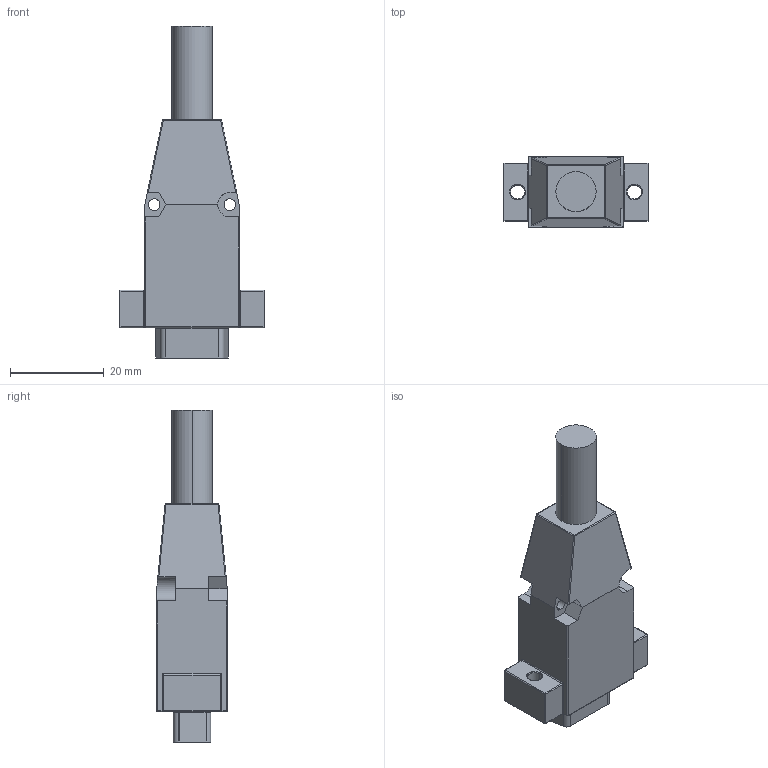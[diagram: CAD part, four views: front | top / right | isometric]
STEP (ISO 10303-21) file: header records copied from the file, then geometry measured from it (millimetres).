
FILE_DESCRIPTION (( 'STEP AP203' ), '1' );
FILE_NAME ('DB15R1-1000.STEP', '2024-07-01T02:34:45', ( '微软用户' ), ( '微软中国' ), 'SwSTEP 2.0', 'SolidWorks 2018', '' );
FILE_SCHEMA (( 'CONFIG_CONTROL_DESIGN' ));
Length unit declared in the file: millimetre
Products named in the file (1): DB15R1-1000
Bounding box: 31.2 x 15.1 x 71 mm (x, y, z)
Volume: 14509.7 mm3; surface area: 5594.4 mm2
Topology: 1 solids, 1 shells, 232 faces, 532 edges, 322 vertices
Faces by surface type: cylinder 125, plane 70, torus 21, sphere 16
Entity records: 6747 total; most frequent: CARTESIAN_POINT 1285, DIRECTION 1243, ORIENTED_EDGE 1040, EDGE_CURVE 520, AXIS2_PLACEMENT_3D 507, VERTEX_POINT 322, CIRCLE 274, EDGE_LOOP 272
